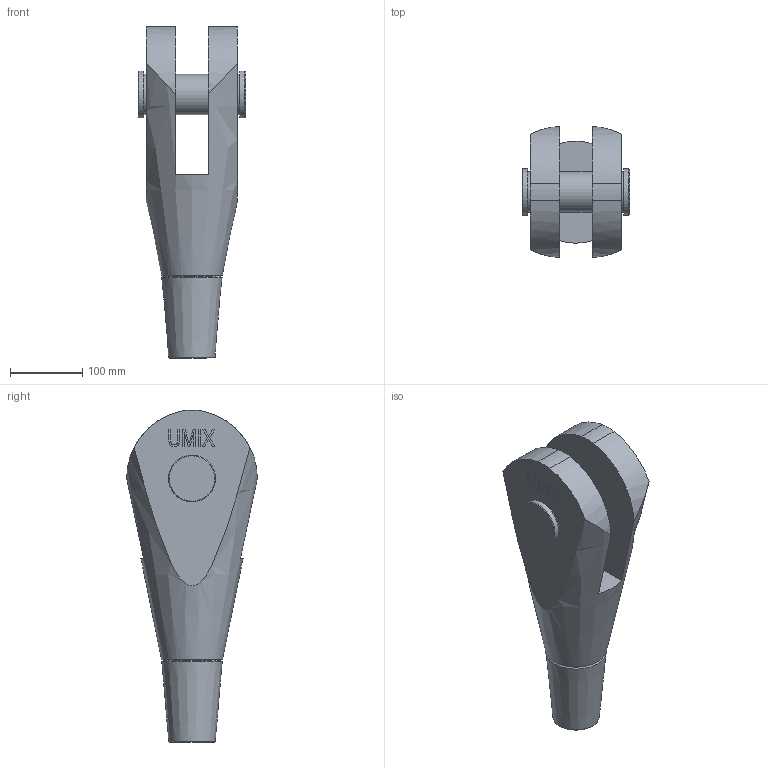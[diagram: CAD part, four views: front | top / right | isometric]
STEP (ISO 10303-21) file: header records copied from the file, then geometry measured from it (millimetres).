
FILE_DESCRIPTION(/* description */ (''),/* implementation_level */ '2;1');
FILE_NAME(/* name */ 'C:\Vault_WS\Designs\520-056-GAK.stp',/* time_stamp */ '2020-06-25T07:57:19+02:00',/* author */ ('schwarz'),/* organization */ (''),/* preprocessor_version */ 'ST-DEVELOPER v16.1',/* originating_system */ 'Autodesk Inventor 2016',/* authorisation */ '');
FILE_SCHEMA (('AUTOMOTIVE_DESIGN { 1 0 10303 214 3 1 1 }'));
Length unit declared in the file: centimetre
Products named in the file (1): 520-056-GAK-KMU-Kunde
Bounding box: 149.44 x 181.03 x 459.89 mm (x, y, z)
Volume: 4132603.9 mm3; surface area: 298892.4 mm2
Topology: 2 solids, 4 shells, 186 faces, 483 edges, 320 vertices
Faces by surface type: plane 136, bspline 21, cylinder 16, cone 13
Full cylindrical faces by diameter (mm): 10.106 x1, 12 x1, 13.5 x1, 23.12 x1, 56 x1, 58.5 x1, 59 x2, 65 x2
Entity records: 5777 total; most frequent: CARTESIAN_POINT 1272, ORIENTED_EDGE 900, DIRECTION 768, EDGE_CURVE 450, LINE 348, VECTOR 348, VERTEX_POINT 310, EDGE_LOOP 230
